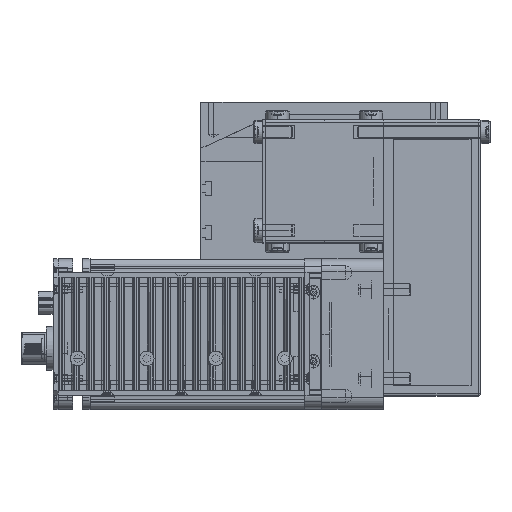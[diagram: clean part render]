
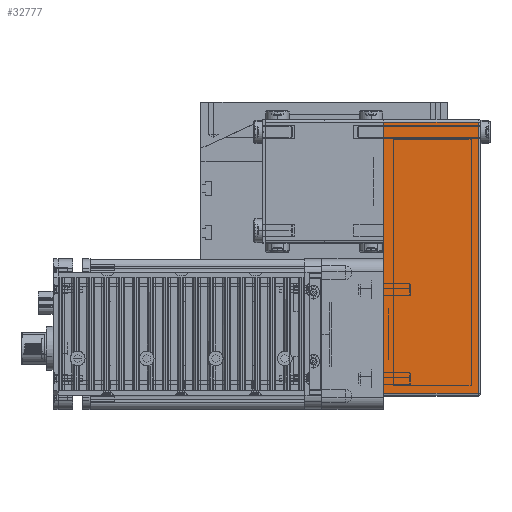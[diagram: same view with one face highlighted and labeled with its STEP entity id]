
A CAD part, top view. The second image highlights one B-rep face of the part: STEP entity #32777.
In plain terms, the highlighted planar face has unit normal (0, 0, 1) as drawn and (0, -1, 0) by its records, which use the part's own axes.
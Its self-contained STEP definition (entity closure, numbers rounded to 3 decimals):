
#26009 = CARTESIAN_POINT ( 'NONE',  ( 61., -25., 0. ) ) ;
#26031 = CARTESIAN_POINT ( 'NONE',  ( -49., -25., 0. ) ) ;
#26086 = DIRECTION ( 'NONE',  ( 0., 0., 1. ) ) ;
#26087 = VECTOR ( 'NONE', #26086, 1000. ) ;
#26101 = CARTESIAN_POINT ( 'NONE',  ( -49., -25., 39.5 ) ) ;
#26102 = LINE ( 'NONE', #26101, #26087 ) ;
#26112 = CARTESIAN_POINT ( 'NONE',  ( -49., -25., 38.5 ) ) ;
#26170 = DIRECTION ( 'NONE',  ( 0., 0., -1. ) ) ;
#26171 = VECTOR ( 'NONE', #26170, 1000. ) ;
#26173 = CARTESIAN_POINT ( 'NONE',  ( 61., -25., 39.5 ) ) ;
#26174 = LINE ( 'NONE', #26173, #26171 ) ;
#26327 = CARTESIAN_POINT ( 'NONE',  ( 61., -25., 38.5 ) ) ;
#26411 = DIRECTION ( 'NONE',  ( 1., 0., 0. ) ) ;
#26412 = VECTOR ( 'NONE', #26411, 1000. ) ;
#26432 = CARTESIAN_POINT ( 'NONE',  ( -50., -25., 0. ) ) ;
#26434 = LINE ( 'NONE', #26432, #26412 ) ;
#26832 = PLANE ( 'NONE',  #26963 ) ;
#26859 = CARTESIAN_POINT ( 'NONE',  ( -50., -25., 38.5 ) ) ;
#26861 = LINE ( 'NONE', #26859, #26887 ) ;
#26883 = FACE_OUTER_BOUND ( 'NONE', #32650, .T. ) ;
#26884 = CARTESIAN_POINT ( 'NONE',  ( -50., -25., 39.5 ) ) ;
#26886 = DIRECTION ( 'NONE',  ( 1., 0., 0. ) ) ;
#26887 = VECTOR ( 'NONE', #26886, 1000. ) ;
#26941 = DIRECTION ( 'NONE',  ( 0., 0., 1. ) ) ;
#26943 = DIRECTION ( 'NONE',  ( 0., 1., 0. ) ) ;
#26963 = AXIS2_PLACEMENT_3D ( 'NONE', #26884, #26943, #26941 ) ;
#32436 = VERTEX_POINT ( 'NONE', #26009 ) ;
#32437 = VERTEX_POINT ( 'NONE', #26031 ) ;
#32457 = VERTEX_POINT ( 'NONE', #26112 ) ;
#32459 = EDGE_CURVE ( 'NONE', #32437, #32457, #26102, .T. ) ;
#32504 = EDGE_CURVE ( 'NONE', #32551, #32436, #26174, .T. ) ;
#32551 = VERTEX_POINT ( 'NONE', #26327 ) ;
#32650 = EDGE_LOOP ( 'NONE', ( #32659, #32661, #32781, #32754 ) ) ;
#32656 = EDGE_CURVE ( 'NONE', #32437, #32436, #26434, .T. ) ;
#32659 = ORIENTED_EDGE ( 'NONE', *, *, #32459, .F. ) ;
#32661 = ORIENTED_EDGE ( 'NONE', *, *, #32656, .T. ) ;
#32754 = ORIENTED_EDGE ( 'NONE', *, *, #32772, .F. ) ;
#32772 = EDGE_CURVE ( 'NONE', #32457, #32551, #26861, .T. ) ;
#32777 = ADVANCED_FACE ( 'NONE', ( #26883 ), #26832, .F. ) ;
#32781 = ORIENTED_EDGE ( 'NONE', *, *, #32504, .F. ) ;
